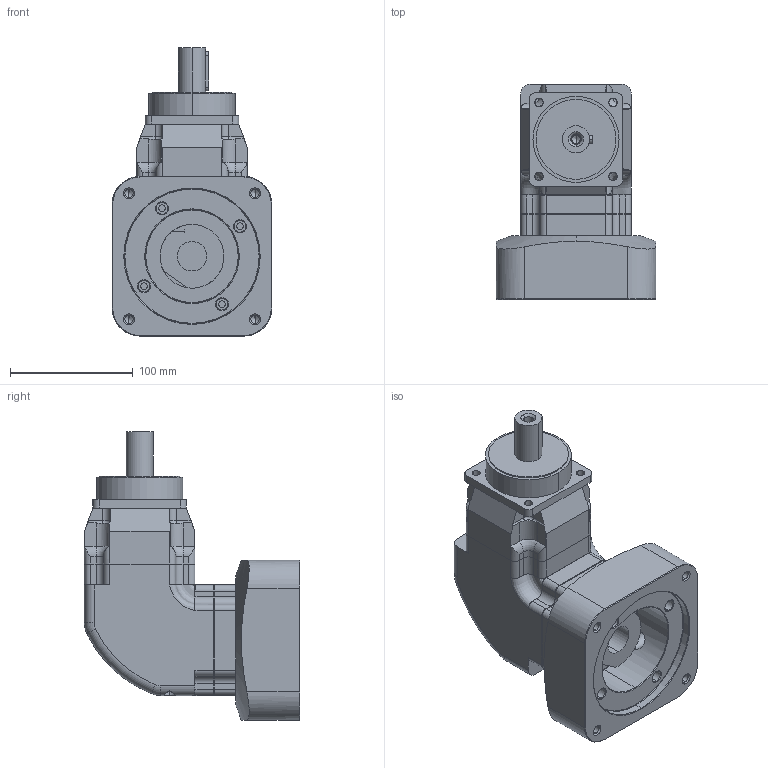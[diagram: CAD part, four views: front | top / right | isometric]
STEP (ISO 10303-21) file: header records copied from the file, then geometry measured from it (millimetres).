
FILE_DESCRIPTION (( 'STEP AP214' ), '1' );
FILE_NAME ('TRF075-1ST.STEP', '2025-04-30T05:52:21', ( 'Administrator' ), ( '' ), 'SwSTEP 2.0', 'SolidWorks 2023', '' );
FILE_SCHEMA (( 'AUTOMOTIVE_DESIGN' ));
Length unit declared in the file: millimetre
Products named in the file (5): TUF75-X-RG; TUB090-X-IN-ST_d24; Q04013X0008; TRB090-HS; TRF075-1ST
Assembly tree (4 placements, depth 2):
  TRF075-1ST
    TUF75-X-RG
    TRB090-HS
    TUB090-X-IN-ST_d24
    Q04013X0008
Bounding box: 130 x 175.2 x 234.5 mm (x, y, z)
Volume: 1910282 mm3; surface area: 199022.6 mm2
Topology: 4 solids, 9 shells, 435 faces, 1078 edges, 668 vertices
Faces by surface type: cylinder 193, plane 140, cone 78, torus 22, bspline 2
Entity records: 14409 total; most frequent: CARTESIAN_POINT 3804, DIRECTION 2275, ORIENTED_EDGE 2132, EDGE_CURVE 1066, AXIS2_PLACEMENT_3D 867, VERTEX_POINT 668, LINE 541, VECTOR 541
